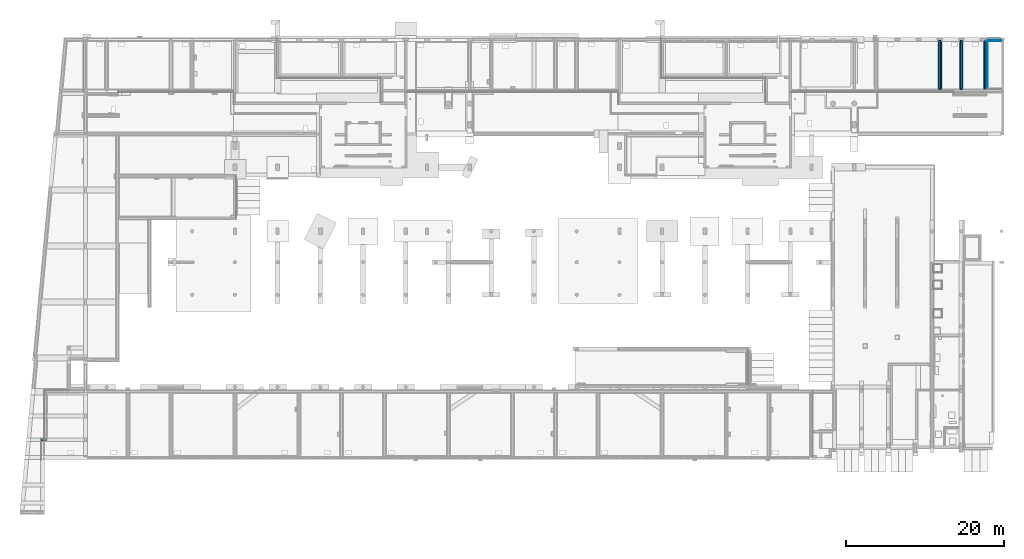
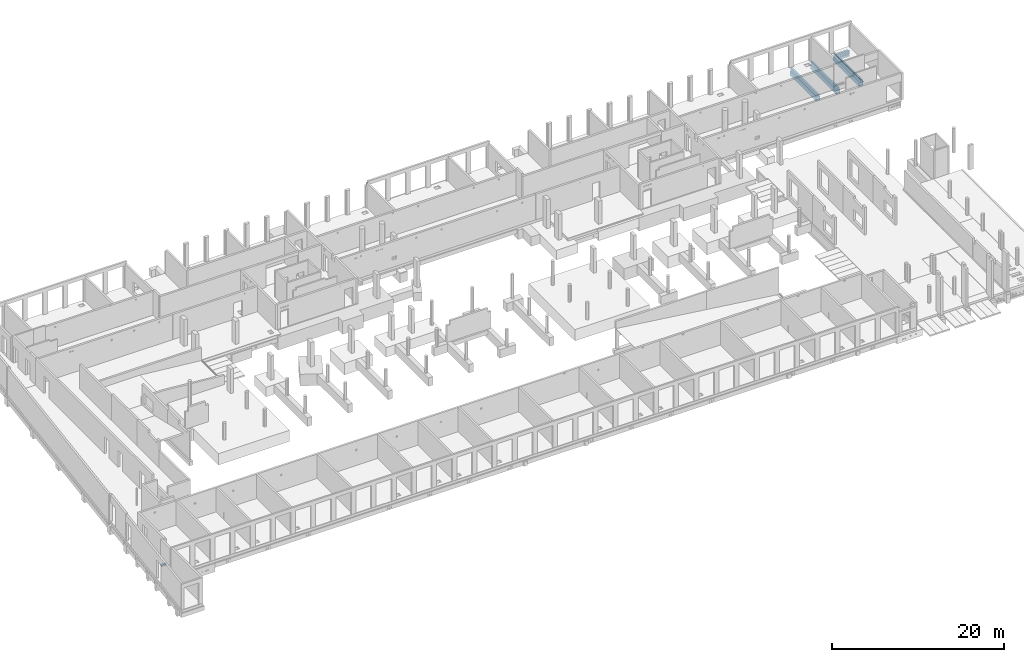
# One storey, part 9 of 60: 11 footings.
"""IFC2X3 building model written with IfcOpenShell, lengths in millimetres."""

from ifc_helpers import new_model, entity, si_unit, converted_unit, derived_unit, direction, frame, frame_2d, origin, place, context, subcontext, project, spatial, polyline, circle_curve, parameter, trimmed, segment, composite_curve, rectangle, outline, extrude, material, element, save


model = new_model("IFC2X3")

# Units and contexts
model_context = context("Model", 3, precision=0.01, world=origin(), true_north=direction((6.12303176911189e-17, 1.0)))
body_context = subcontext(model_context, "Body", "Model", "MODEL_VIEW")
ifc_project = project(units=[si_unit("LENGTHUNIT", "METRE", prefix="MILLI"), si_unit("AREAUNIT", "SQUARE_METRE"), si_unit("VOLUMEUNIT", "CUBIC_METRE"), converted_unit("PLANEANGLEUNIT", "DEGREE", entity("IfcRatioMeasure", 0.0174532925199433), si_unit("PLANEANGLEUNIT", "RADIAN"), dimensions=[0, 0, 0, 0, 0, 0, 0]), si_unit("MASSUNIT", "GRAM", prefix="KILO"), derived_unit("MASSDENSITYUNIT", [(si_unit("MASSUNIT", "GRAM", prefix="KILO"), 1), (si_unit("LENGTHUNIT", "METRE"), -3)]), si_unit("TIMEUNIT", "SECOND"), si_unit("FREQUENCYUNIT", "HERTZ"), si_unit("THERMODYNAMICTEMPERATUREUNIT", "DEGREE_CELSIUS"), derived_unit("THERMALTRANSMITTANCEUNIT", [(si_unit("MASSUNIT", "GRAM", prefix="KILO"), 1), (si_unit("THERMODYNAMICTEMPERATUREUNIT", "KELVIN"), -1), (si_unit("TIMEUNIT", "SECOND"), -3)]), derived_unit("VOLUMETRICFLOWRATEUNIT", [(si_unit("LENGTHUNIT", "METRE"), 3), (si_unit("TIMEUNIT", "SECOND"), -1)]), si_unit("ELECTRICCURRENTUNIT", "AMPERE"), si_unit("ELECTRICVOLTAGEUNIT", "VOLT"), si_unit("POWERUNIT", "WATT"), si_unit("FORCEUNIT", "NEWTON", prefix="KILO"), si_unit("ILLUMINANCEUNIT", "LUX"), si_unit("LUMINOUSFLUXUNIT", "LUMEN"), si_unit("LUMINOUSINTENSITYUNIT", "CANDELA"), derived_unit("USERDEFINED", [(si_unit("MASSUNIT", "GRAM", prefix="KILO"), -1), (si_unit("LENGTHUNIT", "METRE"), -2), (si_unit("TIMEUNIT", "SECOND"), 3), (si_unit("LUMINOUSFLUXUNIT", "LUMEN"), 1)]), derived_unit("LINEARVELOCITYUNIT", [(si_unit("LENGTHUNIT", "METRE"), 1), (si_unit("TIMEUNIT", "SECOND"), -1)]), si_unit("PRESSUREUNIT", "PASCAL"), derived_unit("USERDEFINED", [(si_unit("LENGTHUNIT", "METRE"), -2), (si_unit("MASSUNIT", "GRAM", prefix="KILO"), 1), (si_unit("TIMEUNIT", "SECOND"), -2)])], contexts=[model_context])

# Site, building, storey
site_placement = place(None, origin())
site = spatial("IfcSite", under=ifc_project, at=site_placement, Name="Default", CompositionType="ELEMENT")
building_placement = place(site_placement, origin())
building = spatial("IfcBuilding", under=site, at=building_placement, Name="niet gebruiken", CompositionType="ELEMENT")
storey_placement = place(building_placement, origin())
storey = spatial("IfcBuildingStorey", under=building, at=storey_placement, Name="00 begane grond", CompositionType="ELEMENT", Elevation=0.0)

# Footings
ifc_material = material(Name="NLRS_f2_beton ihwg")
footing_1_placement = place(storey_placement, origin())
element("IfcFooting", 1, at=footing_1_placement, inside=storey, material=ifc_material, Name="NLRS_16.12_SF_WPB_funderingsbalk ihwg recht_gen:500x600", ObjectType="NLRS_16.12_SF_WPB_funderingsbalk ihwg recht_gen:500x600", PredefinedType="FOOTING_BEAM", context=body_context, shape_type="SweptSolid", body=[
    extrude(rectangle(XDim=6010.00000000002, YDim=499.99999999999, at=frame_2d((0.0, -1.73230318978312e-11), x_axis=(1.0, 0.0))), frame((118800.0, 49876.0, -1092.0), z_axis=(0.0, 0.0, 1.0), x_axis=(0.0, 1.0, 0.0)), (0.0, 0.0, 1.0), 599.999999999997),
])
footing_2_placement = place(storey_placement, origin())
element("IfcFooting", 2, at=footing_2_placement, inside=storey, material=ifc_material, Name="NLRS_16.12_SF_WPB_funderingsbalk ihwg recht_gen:500x600", ObjectType="NLRS_16.12_SF_WPB_funderingsbalk ihwg recht_gen:500x600", PredefinedType="FOOTING_BEAM", context=body_context, shape_type="SweptSolid", body=[
    extrude(rectangle(XDim=6010.0, YDim=500.000000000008, at=frame_2d((0.0, -1.73230318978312e-11), x_axis=(1.0, 0.0))), frame((121874.999039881, 49876.0, -1092.0), z_axis=(0.0, 0.0, 1.0), x_axis=(0.0, 1.0, 0.0)), (0.0, 0.0, 1.0), 599.999999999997),
])
footing_3_placement = place(storey_placement, origin())
element("IfcFooting", 3, at=footing_3_placement, inside=storey, material=ifc_material, Name="NLRS_16.12_SF_WPB_opstort ihwg recht_gen:250x332", ObjectType="NLRS_16.12_SF_WPB_opstort ihwg recht_gen:250x332", PredefinedType="FOOTING_BEAM", context=body_context, shape_type="SweptSolid", body=[
    extrude(rectangle(XDim=649.99999999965, YDim=250.0, at=frame_2d((-14.9999999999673, -25.0000000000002), x_axis=(1.0, 0.0))), frame((2860.0, 2510.0, -402.0), z_axis=(0.0, 0.0, 1.0), x_axis=(-1.0, 0.0, 0.0)), (0.0, 0.0, 1.0), 241.999999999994),
])
footing_4_placement = place(storey_placement, origin())
element("IfcFooting", 4, at=footing_4_placement, inside=storey, material=ifc_material, Name="NLRS_16.12_SF_WPB_opstort ihwg recht_gen:250x332", ObjectType="NLRS_16.12_SF_WPB_opstort ihwg recht_gen:250x332", PredefinedType="FOOTING_BEAM", context=body_context, shape_type="SweptSolid", body=[
    extrude(rectangle(XDim=6260.00000000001, YDim=250.000000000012, at=frame_2d((-4.32009983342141e-12, 1.73230318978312e-11), x_axis=(1.0, 0.0))), frame((118800.0, 49876.0, -492.0), z_axis=(0.0, 0.0, 1.0), x_axis=(0.0, 1.0, 0.0)), (0.0, 0.0, 1.0), 331.999999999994),
])
footing_5_placement = place(storey_placement, origin())
element("IfcFooting", 5, at=footing_5_placement, inside=storey, material=ifc_material, Name="NLRS_16.12_SF_WPB_opstort ihwg recht_gen:250x390", ObjectType="NLRS_16.12_SF_WPB_opstort ihwg recht_gen:250x390", PredefinedType="FOOTING_BEAM", context=body_context, shape_type="SweptSolid", body=[
    extrude(rectangle(XDim=6260.00000000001, YDim=250.000000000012, at=frame_2d((-4.32009983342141e-12, 0.0), x_axis=(1.0, 0.0))), frame((121874.999039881, 49876.0, -492.0), z_axis=(0.0, 0.0, 1.0), x_axis=(0.0, -1.0, 0.0)), (0.0, 0.0, 1.0), 332.0),
])
footing_6_placement = place(storey_placement, origin())
element("IfcFooting", 6, at=footing_6_placement, inside=storey, material=ifc_material, Name="NLRS_16.12_SF_WPB_funderingsbalk ihwg recht_gen:500x600", ObjectType="NLRS_16.12_SF_WPB_funderingsbalk ihwg recht_gen:500x600", PredefinedType="FOOTING_BEAM", context=body_context, shape_type="SweptSolid", body=[
    extrude(rectangle(XDim=6010.00000000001, YDim=499.99999999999, at=frame_2d((4.32009983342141e-12, 0.0), x_axis=(1.0, 0.0))), frame((116100.0, 49876.0, -1092.0), z_axis=(0.0, 0.0, 1.0), x_axis=(0.0, -1.0, 0.0)), (0.0, 0.0, 1.0), 599.999999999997),
])
footing_7_placement = place(storey_placement, origin())
element("IfcFooting", 7, at=footing_7_placement, inside=storey, material=ifc_material, Name="NLRS_16.12_SF_WPB_opstort ihwg recht_gen:250x390", ObjectType="NLRS_16.12_SF_WPB_opstort ihwg recht_gen:250x390", PredefinedType="FOOTING_BEAM", context=body_context, shape_type="SweptSolid", body=[
    extrude(rectangle(XDim=6260.00000000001, YDim=250.000000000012, at=frame_2d((-4.32009983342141e-12, 0.0), x_axis=(1.0, 0.0))), frame((116100.0, 49876.0, -492.0), z_axis=(0.0, 0.0, 1.0), x_axis=(0.0, -1.0, 0.0)), (0.0, 0.0, 1.0), 332.000000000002),
])
footing_8_placement = place(storey_placement, origin())
element("IfcFooting", 8, at=footing_8_placement, inside=storey, material=ifc_material, Name="NLRS_16.12_SF_WPB_opstort ihwg recht_gen:125x90", ObjectType="NLRS_16.12_SF_WPB_opstort ihwg recht_gen:125x90", PredefinedType="FOOTING_BEAM", context=body_context, shape_type="SweptSolid", body=[
    extrude(rectangle(XDim=6259.99999999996, YDim=125.000000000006, at=frame_2d((-1.29602995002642e-11, 20.8333333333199), x_axis=(1.0, 0.0))), frame((122083.332373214, 49876.0, -492.0), z_axis=(0.0, 0.0, 1.0), x_axis=(0.0, 1.0, 0.0)), (0.0, 0.0, 1.0), 89.9999999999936),
])
footing_9_placement = place(storey_placement, origin())
element("IfcFooting", 9, at=footing_9_placement, inside=storey, material=ifc_material, Name="NLRS_16.12_SF_WPB_opstort ihwg recht_gen:125x90", ObjectType="NLRS_16.12_SF_WPB_opstort ihwg recht_gen:125x90", PredefinedType="FOOTING_BEAM", context=body_context, shape_type="SweptSolid", body=[
    extrude(rectangle(XDim=1700.00096011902, YDim=124.999999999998, at=frame_2d((0.0, 4.33075797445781e-12), x_axis=(1.0, 0.0))), frame((122974.99951994, 52943.5, -492.0), z_axis=(0.0, 0.0, 1.0), x_axis=(-1.0, 0.0, 0.0)), (0.0, 0.0, 1.0), 89.9999999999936),
])
footing_10_placement = place(storey_placement, origin())
element("IfcFooting", 10, at=footing_10_placement, inside=storey, material=ifc_material, Name="NLRS_16.12_SF_WPB_opstort ihwg recht_gen:190x90", ObjectType="NLRS_16.12_SF_WPB_opstort ihwg recht_gen:190x90", PredefinedType="FOOTING_BEAM", context=body_context, shape_type="SweptSolid", body=[
    extrude(rectangle(XDim=6260.00000000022, YDim=189.999999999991, at=frame_2d((4.32009983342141e-12, 8.66862137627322e-12), x_axis=(1.0, 0.0))), frame((121904.999039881, 49876.0, -160.0), z_axis=(0.0, 0.0, 1.0), x_axis=(0.0, -1.0, 0.0)), (0.0, 0.0, 1.0), 89.9999999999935),
])
footing_11_placement = place(storey_placement, origin())
element("IfcFooting", 11, at=footing_11_placement, inside=storey, material=ifc_material, Name="NLRS_16.12_SF_WPB_funderingsbalk ihwg recht_gen:500x708", ObjectType="NLRS_16.12_SF_WPB_funderingsbalk ihwg recht_gen:500x708", PredefinedType="FOOTING_BEAM", context=body_context, shape_type="SweptSolid", body=[
    extrude(outline(polyline([(-680.0, -403.199999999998), (1020.0, -403.199999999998), (1020.0, 304.799999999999), (-680.0, 304.799999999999), (-680.0, 196.799999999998), (-680.0, -403.199999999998)]), holes=[composite_curve([segment(trimmed(circle_curve(frame_2d((-475.0, -105.200000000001), x_axis=(1.0, 0.0)), 62.5), [parameter(3.56222124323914e-13)], [parameter(180.0)], True, "PARAMETER"), False, "CONTINUOUS"), segment(trimmed(circle_curve(frame_2d((-475.0, -105.200000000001), x_axis=(1.0, 0.0)), 62.5), [parameter(180.0)], [parameter(360.0)], True, "PARAMETER"), False, "CONTINUOUS")], self_intersect=False), composite_curve([segment(trimmed(circle_curve(frame_2d((-189.781070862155, -105.200000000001), x_axis=(1.0, 0.0)), 100.0), [parameter(4.07110999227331e-13)], [parameter(180.0)], True, "PARAMETER"), False, "CONTINUOUS"), segment(trimmed(circle_curve(frame_2d((-189.781070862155, -105.200000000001), x_axis=(1.0, 0.0)), 100.0), [parameter(180.0)], [parameter(360.0)], True, "PARAMETER"), False, "CONTINUOUS")], self_intersect=False), composite_curve([segment(trimmed(circle_curve(frame_2d((130.218929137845, -105.200000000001), x_axis=(1.0, 0.0)), 100.0), [parameter(4.07110999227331e-13)], [parameter(180.0)], True, "PARAMETER"), False, "CONTINUOUS"), segment(trimmed(circle_curve(frame_2d((130.218929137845, -105.200000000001), x_axis=(1.0, 0.0)), 100.0), [parameter(180.0)], [parameter(360.0)], True, "PARAMETER"), False, "CONTINUOUS")], self_intersect=False), composite_curve([segment(trimmed(circle_curve(frame_2d((475.218929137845, -105.200000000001), x_axis=(1.0, 0.0)), 125.0), [parameter(3.05333249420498e-13)], [parameter(180.0)], True, "PARAMETER"), False, "CONTINUOUS"), segment(trimmed(circle_curve(frame_2d((475.218929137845, -105.200000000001), x_axis=(1.0, 0.0)), 125.0), [parameter(180.0)], [parameter(360.0)], True, "PARAMETER"), False, "CONTINUOUS")], self_intersect=False), composite_curve([segment(trimmed(circle_curve(frame_2d((845.218929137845, -105.200000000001), x_axis=(1.0, 0.0)), 125.0), [parameter(3.05333249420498e-13)], [parameter(180.0)], True, "PARAMETER"), False, "CONTINUOUS"), segment(trimmed(circle_curve(frame_2d((845.218929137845, -105.200000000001), x_axis=(1.0, 0.0)), 125.0), [parameter(180.0)], [parameter(360.0)], True, "PARAMETER"), False, "CONTINUOUS")], self_intersect=False)]), frame((122805.0, 52881.0, -895.200000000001), z_axis=(0.0, 1.0, 0.0), x_axis=(1.0, 0.0, 0.0)), (0.0, 0.0, 1.0), 499.999999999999),
])

save(model, "model.ifc")
